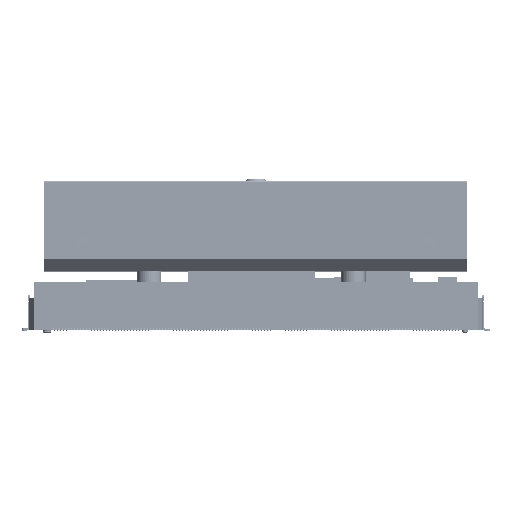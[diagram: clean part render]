
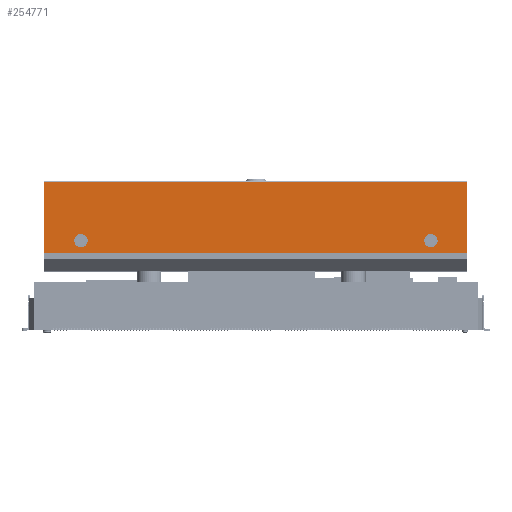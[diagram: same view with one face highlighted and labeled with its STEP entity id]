
A CAD part, top view. The second image highlights one B-rep face of the part: STEP entity #254771.
In plain terms, the highlighted planar face has unit normal (0, 0, 1) as drawn and (0, 1, 0) by its records, which use the part's own axes.
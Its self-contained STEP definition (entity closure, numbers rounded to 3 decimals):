
#828=FACE_BOUND('',#94944,.T.);
#829=FACE_BOUND('',#94945,.T.);
#9360=PLANE('',#270109);
#24059=LINE('',#376744,#53304);
#24060=LINE('',#376746,#53305);
#24061=LINE('',#376748,#53306);
#24062=LINE('',#376749,#53307);
#53304=VECTOR('',#303809,69.6);
#53305=VECTOR('',#303810,11.6);
#53306=VECTOR('',#303811,69.6);
#53307=VECTOR('',#303812,11.6);
#81440=FACE_OUTER_BOUND('',#94943,.T.);
#94943=EDGE_LOOP('',(#194900,#194901,#194902,#194903));
#94944=EDGE_LOOP('',(#194904));
#94945=EDGE_LOOP('',(#194905));
#106922=CIRCLE('',#270110,1.1);
#106923=CIRCLE('',#270111,1.1);
#119201=VERTEX_POINT('',#376742);
#119202=VERTEX_POINT('',#376743);
#119203=VERTEX_POINT('',#376745);
#119204=VERTEX_POINT('',#376747);
#119205=VERTEX_POINT('',#376750);
#119206=VERTEX_POINT('',#376752);
#147415=EDGE_CURVE('',#119201,#119202,#24059,.T.);
#147416=EDGE_CURVE('',#119203,#119201,#24060,.T.);
#147417=EDGE_CURVE('',#119204,#119203,#24061,.T.);
#147418=EDGE_CURVE('',#119204,#119202,#24062,.T.);
#147419=EDGE_CURVE('',#119205,#119205,#106922,.T.);
#147420=EDGE_CURVE('',#119206,#119206,#106923,.T.);
#194900=ORIENTED_EDGE('',*,*,#147415,.F.);
#194901=ORIENTED_EDGE('',*,*,#147416,.F.);
#194902=ORIENTED_EDGE('',*,*,#147417,.F.);
#194903=ORIENTED_EDGE('',*,*,#147418,.T.);
#194904=ORIENTED_EDGE('',*,*,#147419,.T.);
#194905=ORIENTED_EDGE('',*,*,#147420,.T.);
#254771=ADVANCED_FACE('',(#81440,#828,#829),#9360,.T.);
#270109=AXIS2_PLACEMENT_3D('',#376741,#303807,#303808);
#270110=AXIS2_PLACEMENT_3D('',#376751,#303813,#303814);
#270111=AXIS2_PLACEMENT_3D('',#376753,#303815,#303816);
#303807=DIRECTION('center_axis',(0.,1.,0.));
#303808=DIRECTION('ref_axis',(1.,0.,0.));
#303809=DIRECTION('',(-1.,0.,0.));
#303810=DIRECTION('',(0.,0.,1.));
#303811=DIRECTION('',(1.,0.,0.));
#303812=DIRECTION('',(0.,0.,1.));
#303813=DIRECTION('center_axis',(0.,-1.,0.));
#303814=DIRECTION('ref_axis',(-1.,0.,0.));
#303815=DIRECTION('center_axis',(0.,-1.,0.));
#303816=DIRECTION('ref_axis',(1.,0.,0.));
#376741=CARTESIAN_POINT('Origin',(34.8,25.051,20.487));
#376742=CARTESIAN_POINT('',(34.8,25.051,20.287));
#376743=CARTESIAN_POINT('',(-34.8,25.051,20.287));
#376744=CARTESIAN_POINT('',(34.8,25.051,20.287));
#376745=CARTESIAN_POINT('',(34.8,25.051,8.687));
#376746=CARTESIAN_POINT('',(34.8,25.051,8.687));
#376747=CARTESIAN_POINT('',(-34.8,25.051,8.687));
#376748=CARTESIAN_POINT('',(-34.8,25.051,8.687));
#376749=CARTESIAN_POINT('',(-34.8,25.051,8.687));
#376750=CARTESIAN_POINT('',(29.9,25.051,10.687));
#376751=CARTESIAN_POINT('Origin',(28.8,25.051,10.687));
#376752=CARTESIAN_POINT('',(-29.9,25.051,10.687));
#376753=CARTESIAN_POINT('Origin',(-28.8,25.051,10.687));
